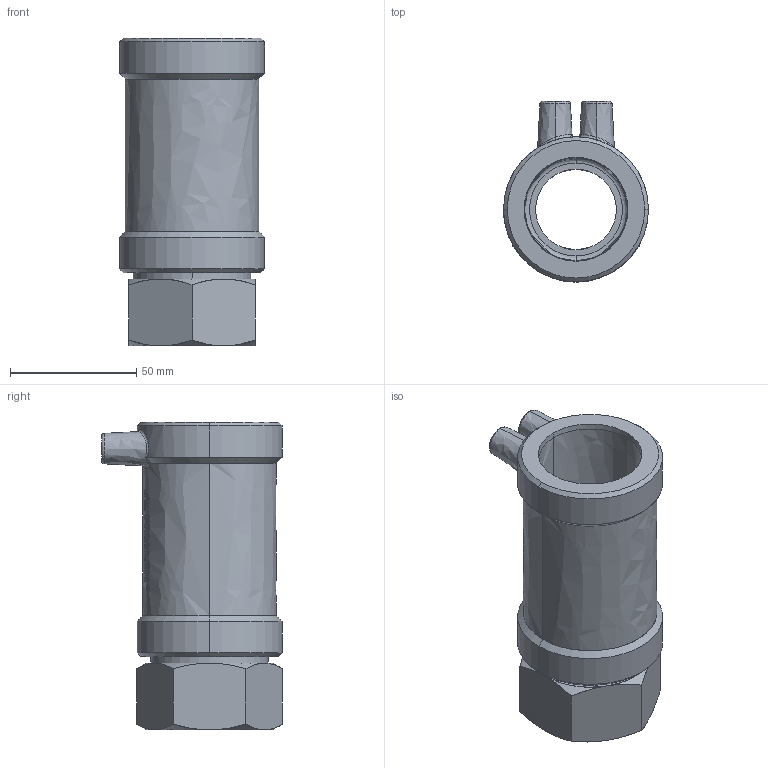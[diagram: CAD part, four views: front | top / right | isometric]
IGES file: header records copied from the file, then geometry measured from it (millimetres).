
Start section:  PTC IGES file: ustm_d40_1_1-4_01.igs
Global section: file name: ustm_d40_1_1-4_01.igs; native system: Pro/ENGINEER by Parametric Technology Corporation; preprocessor: 2011490; author: mtunjic; organization: Unknown; date: 20130823.113210; units: millimetre
Bounding box: 57.5 x 71.67 x 122 mm (x, y, z)
Surface area: 43554.4 mm2 (no closed solid volume)
Topology: 0 solids, 0 shells, 221 faces, 1126 edges, 1126 vertices
Faces by surface type: bspline 221
